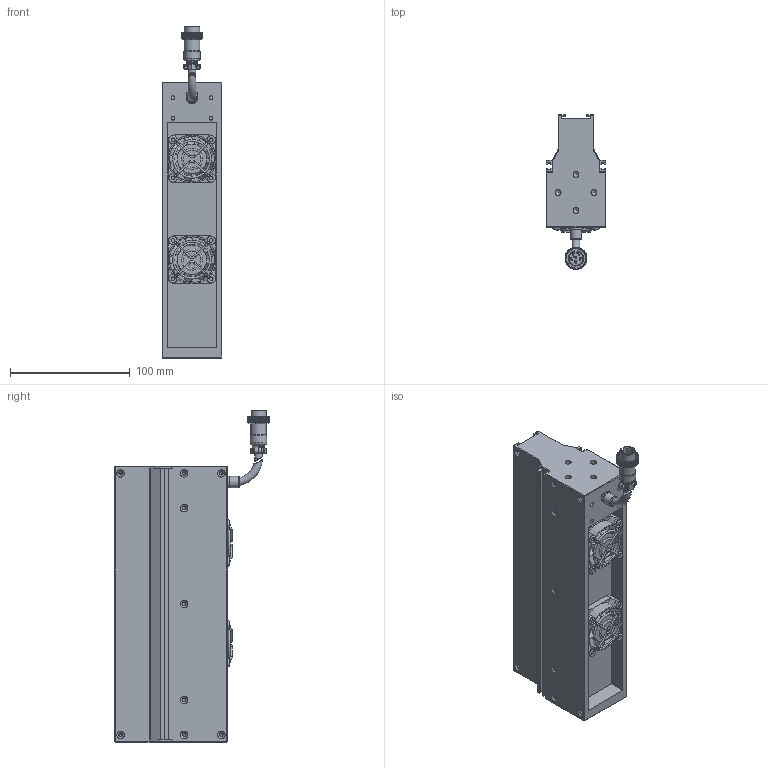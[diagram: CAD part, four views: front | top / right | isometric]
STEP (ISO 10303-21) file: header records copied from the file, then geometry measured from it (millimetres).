
FILE_DESCRIPTION (( 'STEP AP203' ), '1' );
FILE_NAME ('OPT-LSS230-W-V3.1尨砩芞.STEP', '2025-01-20T06:20:11', ( '' ), ( '' ), 'SwSTEP 2.0', 'SolidWorks 2016', '' );
FILE_SCHEMA (( 'CONFIG_CONTROL_DESIGN' ));
Products named in the file (1): OPT-LSS230-W-V3.1尨砩芞
Bounding box: 50 x 129.15 x 276.83 mm (x, y, z)
Volume: 790076.8 mm3; surface area: 130030.6 mm2
Topology: 13 solids, 25 shells, 3690 faces, 8147 edges, 4582 vertices
Faces by surface type: bspline 2113, cylinder 754, plane 688, torus 82, cone 53
Full cylindrical faces by diameter (mm): 0.95 x6, 1.1 x2, 1.4 x2, 1.6 x8, 2 x6, 2.5 x18, 3.2 x12, 3.4 x18, 3.5 x8, 5 x8, 6.2 x8, 6.4 x3, 7.5 x1, 8.6 x1, 9.3 x1, 9.8 x1, 10 x1, 13.2 x1, 14 x1, 16.1 x1, 24.8 x2, 38 x2
Entity records: 124319 total; most frequent: CARTESIAN_POINT 63174, ORIENTED_EDGE 15716, EDGE_CURVE 7858, DIRECTION 6010, B_SPLINE_CURVE_WITH_KNOTS 5588, VERTEX_POINT 4509, EDGE_LOOP 4003, FACE_OUTER_BOUND 3845
